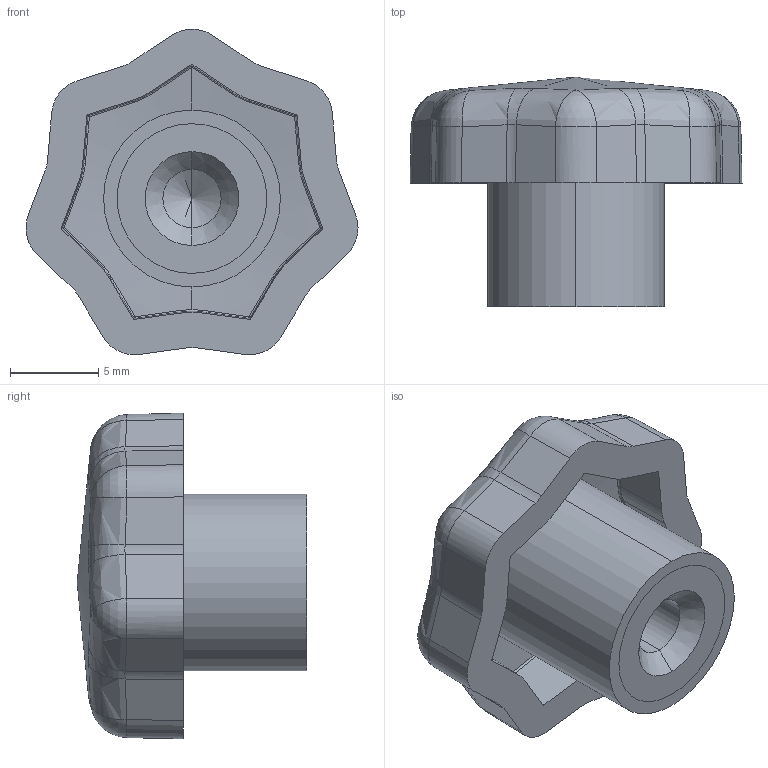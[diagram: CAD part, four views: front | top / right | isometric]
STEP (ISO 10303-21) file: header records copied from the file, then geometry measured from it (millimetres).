
FILE_DESCRIPTION (( 'STEP AP203' ), '1' );
FILE_NAME ('AP-1020-20-M4.STEP', '2015-11-23T09:58:41', ( '' ), ( '' ), 'SwSTEP 2.0', 'SolidWorks 2014', '' );
FILE_SCHEMA (( 'CONFIG_CONTROL_DESIGN' ));
Length unit declared in the file: millimetre
Products named in the file (1): AP-1020-20-M4
Bounding box: 18.78 x 13 x 18.42 mm (x, y, z)
Surface area: 2519.2 mm2 (no closed solid volume)
Topology: 0 solids, 3 shells, 162 faces, 374 edges, 222 vertices
Faces by surface type: cylinder 58, bspline 42, plane 40, sphere 14, cone 8
Entity records: 4939 total; most frequent: CARTESIAN_POINT 1589, ORIENTED_EDGE 736, DIRECTION 612, EDGE_CURVE 370, AXIS2_PLACEMENT_3D 245, VERTEX_POINT 222, EDGE_LOOP 172, ADVANCED_FACE 162
